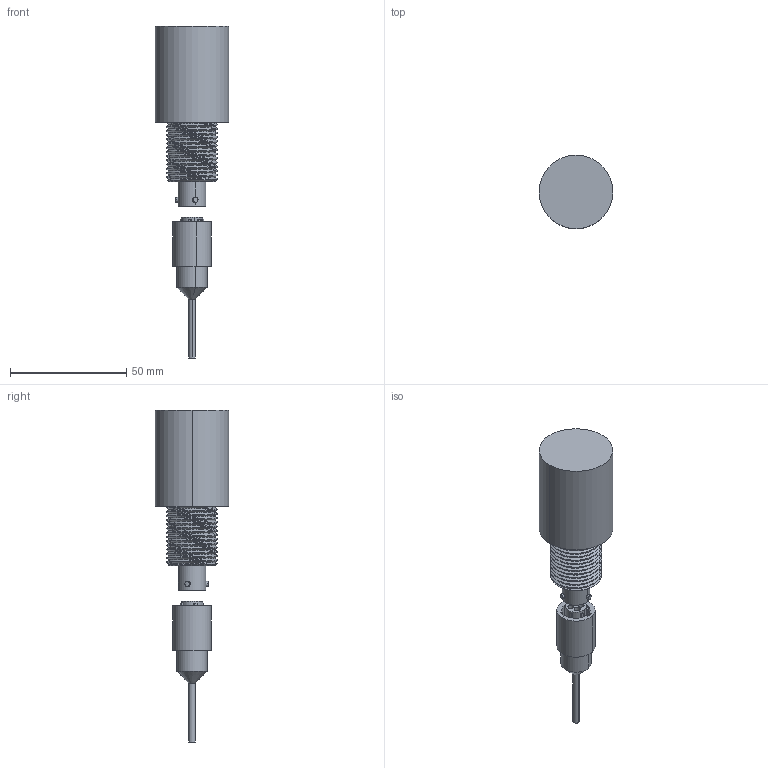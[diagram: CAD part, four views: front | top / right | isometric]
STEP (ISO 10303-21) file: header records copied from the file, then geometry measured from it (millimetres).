
FILE_DESCRIPTION (( 'STEP AP203' ), '1' );
FILE_NAME ('10CU.STEP', '2010-03-05T18:57:00', ( 'tom edwards' ), ( 'Tom J. Edwards' ), 'SwSTEP 2.0', 'SolidWorks 2008', '' );
FILE_SCHEMA (( 'CONFIG_CONTROL_DESIGN' ));
Length unit declared in the file: millimetre
Products named in the file (4): DTIH-8-4PN; receptacle DTIH-8-4PN; 10CU; 10CU_Thread Runout
Assembly tree (3 placements, depth 2):
  10CU
    10CU_Thread Runout
    DTIH-8-4PN
    receptacle DTIH-8-4PN
Bounding box: 31.75 x 31.75 x 143.04 mm (x, y, z)
Volume: 48090.2 mm3; surface area: 12840.8 mm2
Topology: 3 solids, 3 shells, 152 faces, 382 edges, 253 vertices
Faces by surface type: cylinder 73, plane 65, bspline 9, cone 5
Entity records: 9012 total; most frequent: CARTESIAN_POINT 5101, ORIENTED_EDGE 764, DIRECTION 695, EDGE_CURVE 382, VERTEX_POINT 253, AXIS2_PLACEMENT_3D 246, VECTOR 203, LINE 203
